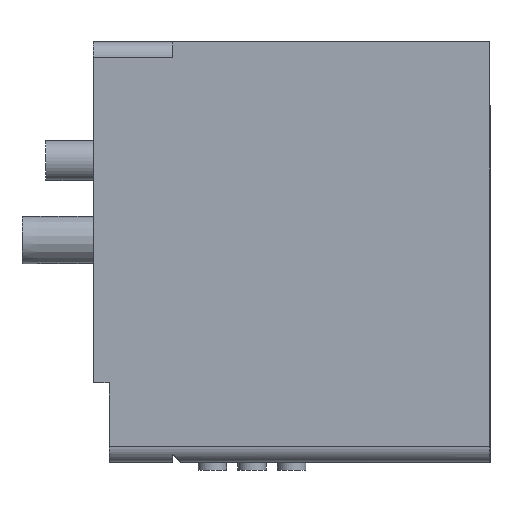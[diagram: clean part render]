
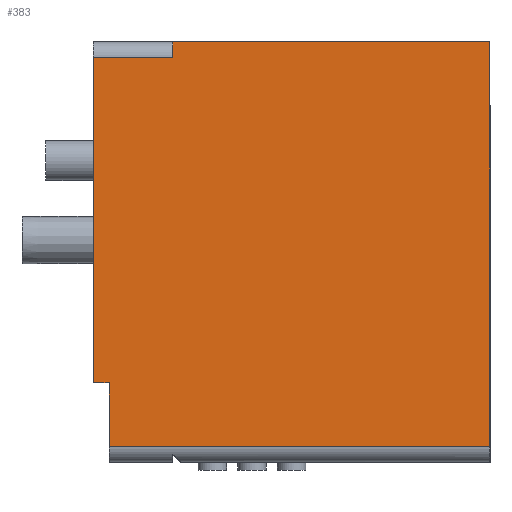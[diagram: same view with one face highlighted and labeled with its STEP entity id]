
A CAD part, left-side view. The second image highlights one B-rep face of the part: STEP entity #383.
In plain terms, the highlighted planar face has unit normal (-1, 0, 0).
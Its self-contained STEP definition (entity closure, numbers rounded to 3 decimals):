
#383=ADVANCED_FACE('',(#1029),#1030,.F.);
#1029=FACE_OUTER_BOUND('',#2093,.T.);
#1030=PLANE('',#2094);
#2093=EDGE_LOOP('',(#3158,#3159,#3160,#3161,#3162,#3163,#3164,#3165));
#2094=AXIS2_PLACEMENT_3D('',#3166,#3167,#3168);
#3158=ORIENTED_EDGE('',*,*,#5283,.F.);
#3159=ORIENTED_EDGE('',*,*,#5284,.F.);
#3160=ORIENTED_EDGE('',*,*,#5265,.T.);
#3161=ORIENTED_EDGE('',*,*,#5285,.T.);
#3162=ORIENTED_EDGE('',*,*,#5286,.F.);
#3163=ORIENTED_EDGE('',*,*,#5287,.F.);
#3164=ORIENTED_EDGE('',*,*,#5288,.T.);
#3165=ORIENTED_EDGE('',*,*,#5289,.T.);
#3166=CARTESIAN_POINT('',(-20.0,-5.0,-14.0));
#3167=DIRECTION('',(1.0,0.0,0.0));
#3168=DIRECTION('',(0.0,1.0,0.0));
#5265=EDGE_CURVE('',#6048,#6050,#6052,.T.);
#5283=EDGE_CURVE('',#6082,#6083,#6084,.T.);
#5284=EDGE_CURVE('',#6048,#6082,#6085,.T.);
#5285=EDGE_CURVE('',#6050,#6086,#6087,.T.);
#5286=EDGE_CURVE('',#6088,#6086,#6089,.T.);
#5287=EDGE_CURVE('',#6090,#6088,#6091,.T.);
#5288=EDGE_CURVE('',#6090,#6092,#6093,.T.);
#5289=EDGE_CURVE('',#6092,#6083,#6094,.T.);
#6048=VERTEX_POINT('',#7204);
#6050=VERTEX_POINT('',#7207);
#6052=LINE('',#7209,#7210);
#6082=VERTEX_POINT('',#7248);
#6083=VERTEX_POINT('',#7249);
#6084=LINE('',#7250,#7251);
#6085=LINE('',#7252,#7253);
#6086=VERTEX_POINT('',#7254);
#6087=LINE('',#7255,#7256);
#6088=VERTEX_POINT('',#7257);
#6089=LINE('',#7258,#7259);
#6090=VERTEX_POINT('',#7260);
#6091=LINE('',#7261,#7262);
#6092=VERTEX_POINT('',#7263);
#6093=LINE('',#7264,#7265);
#6094=LINE('',#7266,#7267);
#7204=CARTESIAN_POINT('',(-20.,-5.,12.5));
#7207=CARTESIAN_POINT('',(-20.,-5.,11.5));
#7209=CARTESIAN_POINT('',(-20.,-5.,12.5));
#7210=VECTOR('',#8654,1.0);
#7248=CARTESIAN_POINT('',(-20.,-25.,12.5));
#7249=CARTESIAN_POINT('',(-20.0,-25.0,-13.0));
#7250=CARTESIAN_POINT('',(-20.0,-25.0,10.5));
#7251=VECTOR('',#8675,1.0);
#7252=CARTESIAN_POINT('',(-20.,-5.,12.5));
#7253=VECTOR('',#8676,1.0);
#7254=CARTESIAN_POINT('',(-20.0,0.,11.5));
#7255=CARTESIAN_POINT('',(-20.0,-5.0,11.5));
#7256=VECTOR('',#8677,1.0);
#7257=CARTESIAN_POINT('',(-20.0,0.,-9.0));
#7258=CARTESIAN_POINT('',(-20.0,0.,-14.0));
#7259=VECTOR('',#8678,1.0);
#7260=CARTESIAN_POINT('',(-20.0,-1.0,-9.0));
#7261=CARTESIAN_POINT('',(-20.0,-1.0,-9.0));
#7262=VECTOR('',#8679,1.0);
#7263=CARTESIAN_POINT('',(-20.0,-1.0,-13.0));
#7264=CARTESIAN_POINT('',(-20.0,-1.0,-9.0));
#7265=VECTOR('',#8680,1.0);
#7266=CARTESIAN_POINT('',(-20.0,-5.0,-13.0));
#7267=VECTOR('',#8681,1.0);
#8654=DIRECTION('',(0.,0.,-1.0));
#8675=DIRECTION('',(0.0,0.0,-1.0));
#8676=DIRECTION('',(0.,-1.0,0.));
#8677=DIRECTION('',(0.0,1.0,0.0));
#8678=DIRECTION('',(0.0,0.0,1.0));
#8679=DIRECTION('',(0.0,1.0,0.0));
#8680=DIRECTION('',(0.0,0.0,-1.0));
#8681=DIRECTION('',(0.0,-1.0,0.0));
